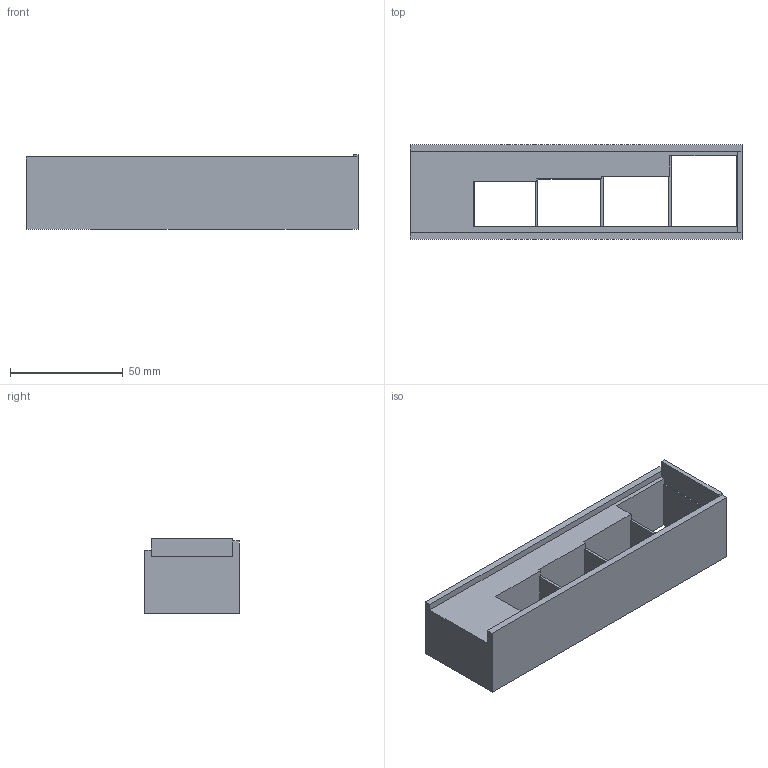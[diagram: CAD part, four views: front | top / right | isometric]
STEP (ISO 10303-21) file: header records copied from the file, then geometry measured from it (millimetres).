
FILE_DESCRIPTION(('Open CASCADE Model'),'2;1');
FILE_NAME('Open CASCADE Shape Model','2026-10-20T15:47:44',('Author'),( 'Open CASCADE'),'Open CASCADE STEP processor 8.0','build123d', 'Unknown');
FILE_SCHEMA(('AUTOMOTIVE_DESIGN { 1 0 10303 214 1 1 1 1 }'));
Length unit declared in the file: millimetre
Products named in the file (2): =>[0:1:1:2]; COMPOUND
Assembly tree (1 placements, depth 2):
  =>[0:1:1:2]
    COMPOUND
Bounding box: 147 x 42 x 33 mm (x, y, z)
Volume: 91776 mm3; surface area: 30018.5 mm2
Topology: 1 solids, 1 shells, 36 faces, 112 edges, 74 vertices
Faces by surface type: plane 36
Entity records: 2684 total; most frequent: CARTESIAN_POINT 484, DIRECTION 376, LINE 300, VECTOR 300, ORIENTED_EDGE 224, PCURVE 224, DEFINITIONAL_REPRESENTATION 224, EDGE_CURVE 112
